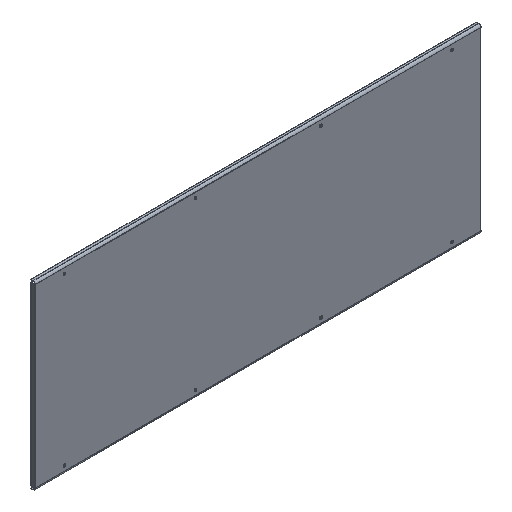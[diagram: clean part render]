
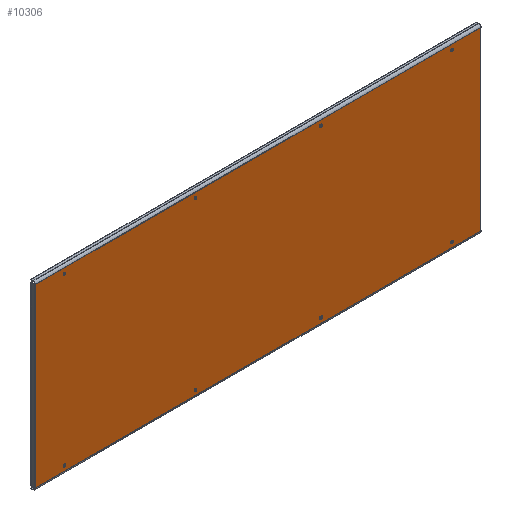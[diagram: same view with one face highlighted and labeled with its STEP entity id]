
A CAD part, isometric view. The second image highlights one B-rep face of the part: STEP entity #10306.
In plain terms, the highlighted planar face has unit normal (0, -1, 0).
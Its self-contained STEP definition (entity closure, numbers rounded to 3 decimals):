
#8381=CARTESIAN_POINT(' ',(275.,-1.5,-370.5));
#8382=VERTEX_POINT(' ',#8381);
#8396=CARTESIAN_POINT(' ',(275.,-1.5,-364.5));
#8401=DIRECTION(' ',(0.,-1.,0.));
#8406=DIRECTION(' ',(0.,0.,-1.));
#8411=AXIS2_PLACEMENT_3D(' ',#8396,#8401,#8406);
#8416=CIRCLE('',#8411,6.);
#8421=CARTESIAN_POINT(' ',(275.,-1.5,-358.5));
#8422=VERTEX_POINT(' ',#8421);
#8426=EDGE_CURVE(' ',#8382,#8422,#8416,.T.);
#9431=CARTESIAN_POINT(' ',(275.,-1.5,-364.5));
#9436=DIRECTION(' ',(0.,-1.,0.));
#9441=DIRECTION(' ',(0.,0.,1.));
#9446=AXIS2_PLACEMENT_3D(' ',#9431,#9436,#9441);
#9451=CIRCLE('',#9446,6.);
#9456=EDGE_CURVE(' ',#8422,#8382,#9451,.T.);
#9481=DIRECTION(' ',(-0.,-1.,-0.));
#9486=CARTESIAN_POINT(' ',(-975.25,-1.5,-386.5));
#9491=DIRECTION(' ',(1.,-0.,0.));
#9496=AXIS2_PLACEMENT_3D(' ',#9486,#9481,#9491);
#9501=PLANE('NONE',#9496);
#9506=CARTESIAN_POINT(' ',(975.25,-1.5,-386.5));
#9511=DIRECTION(' ',(0.,0.,1.));
#9516=VECTOR(' ',#9511,1.);
#9521=LINE('',#9506,#9516);
#9526=CARTESIAN_POINT(' ',(975.25,-1.5,-386.5));
#9527=VERTEX_POINT(' ',#9526);
#9531=CARTESIAN_POINT(' ',(975.25,-1.5,386.5));
#9532=VERTEX_POINT(' ',#9531);
#9536=EDGE_CURVE(' ',#9527,#9532,#9521,.T.);
#9541=ORIENTED_EDGE(' ',*,*,#9536,.T.);
#9546=CARTESIAN_POINT(' ',(975.25,-1.5,386.5));
#9551=DIRECTION(' ',(-1.,0.,0.));
#9556=VECTOR(' ',#9551,1.);
#9561=LINE('',#9546,#9556);
#9566=CARTESIAN_POINT(' ',(-975.25,-1.5,386.5));
#9567=VERTEX_POINT(' ',#9566);
#9571=EDGE_CURVE(' ',#9532,#9567,#9561,.T.);
#9576=ORIENTED_EDGE(' ',*,*,#9571,.T.);
#9581=CARTESIAN_POINT(' ',(-975.25,-1.5,386.5));
#9586=DIRECTION(' ',(0.,0.,-1.));
#9591=VECTOR(' ',#9586,1.);
#9596=LINE('',#9581,#9591);
#9601=CARTESIAN_POINT(' ',(-975.25,-1.5,-386.5));
#9602=VERTEX_POINT(' ',#9601);
#9606=EDGE_CURVE(' ',#9567,#9602,#9596,.T.);
#9611=ORIENTED_EDGE(' ',*,*,#9606,.T.);
#9616=CARTESIAN_POINT(' ',(-975.25,-1.5,-386.5));
#9621=DIRECTION(' ',(1.,0.,0.));
#9626=VECTOR(' ',#9621,1.);
#9631=LINE('',#9616,#9626);
#9636=EDGE_CURVE(' ',#9602,#9527,#9631,.T.);
#9641=ORIENTED_EDGE(' ',*,*,#9636,.T.);
#9646=EDGE_LOOP(' ',(#9541,#9576,#9611,#9641));
#9651=FACE_OUTER_BOUND(' ',#9646,.T.);
#9656=ORIENTED_EDGE(' ',*,*,#9456,.F.);
#9661=ORIENTED_EDGE(' ',*,*,#8426,.F.);
#9666=EDGE_LOOP(' ',(#9656,#9661));
#9671=FACE_BOUND(' ',#9666,.T.);
#9676=CARTESIAN_POINT(' ',(850.,-1.5,-364.5));
#9681=DIRECTION(' ',(0.,-1.,0.));
#9686=DIRECTION(' ',(0.,0.,1.));
#9691=AXIS2_PLACEMENT_3D(' ',#9676,#9681,#9686);
#9696=CIRCLE('',#9691,6.);
#9701=CARTESIAN_POINT(' ',(850.,-1.5,-358.5));
#9702=VERTEX_POINT(' ',#9701);
#9706=CARTESIAN_POINT(' ',(850.,-1.5,-370.5));
#9707=VERTEX_POINT(' ',#9706);
#9711=EDGE_CURVE(' ',#9702,#9707,#9696,.T.);
#9716=ORIENTED_EDGE(' ',*,*,#9711,.F.);
#9721=CARTESIAN_POINT(' ',(850.,-1.5,-364.5));
#9726=DIRECTION(' ',(0.,-1.,0.));
#9731=DIRECTION(' ',(0.,0.,-1.));
#9736=AXIS2_PLACEMENT_3D(' ',#9721,#9726,#9731);
#9741=CIRCLE('',#9736,6.);
#9746=EDGE_CURVE(' ',#9707,#9702,#9741,.T.);
#9751=ORIENTED_EDGE(' ',*,*,#9746,.F.);
#9756=EDGE_LOOP(' ',(#9716,#9751));
#9761=FACE_BOUND(' ',#9756,.T.);
#9766=CARTESIAN_POINT(' ',(850.,-1.5,364.5));
#9771=DIRECTION(' ',(0.,1.,0.));
#9776=DIRECTION(' ',(0.,0.,-1.));
#9781=AXIS2_PLACEMENT_3D(' ',#9766,#9771,#9776);
#9786=CIRCLE('',#9781,6.);
#9791=CARTESIAN_POINT(' ',(850.,-1.5,358.5));
#9792=VERTEX_POINT(' ',#9791);
#9796=CARTESIAN_POINT(' ',(850.,-1.5,370.5));
#9797=VERTEX_POINT(' ',#9796);
#9801=EDGE_CURVE(' ',#9792,#9797,#9786,.T.);
#9806=ORIENTED_EDGE(' ',*,*,#9801,.T.);
#9811=CARTESIAN_POINT(' ',(850.,-1.5,364.5));
#9816=DIRECTION(' ',(0.,1.,0.));
#9821=DIRECTION(' ',(0.,0.,1.));
#9826=AXIS2_PLACEMENT_3D(' ',#9811,#9816,#9821);
#9831=CIRCLE('',#9826,6.);
#9836=EDGE_CURVE(' ',#9797,#9792,#9831,.T.);
#9841=ORIENTED_EDGE(' ',*,*,#9836,.T.);
#9846=EDGE_LOOP(' ',(#9806,#9841));
#9851=FACE_BOUND(' ',#9846,.T.);
#9856=CARTESIAN_POINT(' ',(-275.,-1.5,364.5));
#9861=DIRECTION(' ',(0.,-1.,0.));
#9866=DIRECTION(' ',(0.,0.,-1.));
#9871=AXIS2_PLACEMENT_3D(' ',#9856,#9861,#9866);
#9876=CIRCLE('',#9871,6.);
#9881=CARTESIAN_POINT(' ',(-275.,-1.5,358.5));
#9882=VERTEX_POINT(' ',#9881);
#9886=CARTESIAN_POINT(' ',(-275.,-1.5,370.5));
#9887=VERTEX_POINT(' ',#9886);
#9891=EDGE_CURVE(' ',#9882,#9887,#9876,.T.);
#9896=ORIENTED_EDGE(' ',*,*,#9891,.F.);
#9901=CARTESIAN_POINT(' ',(-275.,-1.5,364.5));
#9906=DIRECTION(' ',(0.,-1.,0.));
#9911=DIRECTION(' ',(0.,0.,1.));
#9916=AXIS2_PLACEMENT_3D(' ',#9901,#9906,#9911);
#9921=CIRCLE('',#9916,6.);
#9926=EDGE_CURVE(' ',#9887,#9882,#9921,.T.);
#9931=ORIENTED_EDGE(' ',*,*,#9926,.F.);
#9936=EDGE_LOOP(' ',(#9896,#9931));
#9941=FACE_BOUND(' ',#9936,.T.);
#9946=CARTESIAN_POINT(' ',(-850.,-1.5,364.5));
#9951=DIRECTION(' ',(0.,-1.,0.));
#9956=DIRECTION(' ',(0.,0.,-1.));
#9961=AXIS2_PLACEMENT_3D(' ',#9946,#9951,#9956);
#9966=CIRCLE('',#9961,6.);
#9971=CARTESIAN_POINT(' ',(-850.,-1.5,358.5));
#9972=VERTEX_POINT(' ',#9971);
#9976=CARTESIAN_POINT(' ',(-850.,-1.5,370.5));
#9977=VERTEX_POINT(' ',#9976);
#9981=EDGE_CURVE(' ',#9972,#9977,#9966,.T.);
#9986=ORIENTED_EDGE(' ',*,*,#9981,.F.);
#9991=CARTESIAN_POINT(' ',(-850.,-1.5,364.5));
#9996=DIRECTION(' ',(0.,-1.,0.));
#10001=DIRECTION(' ',(0.,0.,1.));
#10006=AXIS2_PLACEMENT_3D(' ',#9991,#9996,#10001);
#10011=CIRCLE('',#10006,6.);
#10016=EDGE_CURVE(' ',#9977,#9972,#10011,.T.);
#10021=ORIENTED_EDGE(' ',*,*,#10016,.F.);
#10026=EDGE_LOOP(' ',(#9986,#10021));
#10031=FACE_BOUND(' ',#10026,.T.);
#10036=CARTESIAN_POINT(' ',(-850.,-1.5,-364.5));
#10041=DIRECTION(' ',(0.,1.,0.));
#10046=DIRECTION(' ',(0.,0.,1.));
#10051=AXIS2_PLACEMENT_3D(' ',#10036,#10041,#10046);
#10056=CIRCLE('',#10051,6.);
#10061=CARTESIAN_POINT(' ',(-850.,-1.5,-358.5));
#10062=VERTEX_POINT(' ',#10061);
#10066=CARTESIAN_POINT(' ',(-850.,-1.5,-370.5));
#10067=VERTEX_POINT(' ',#10066);
#10071=EDGE_CURVE(' ',#10062,#10067,#10056,.T.);
#10076=ORIENTED_EDGE(' ',*,*,#10071,.T.);
#10081=CARTESIAN_POINT(' ',(-850.,-1.5,-364.5));
#10086=DIRECTION(' ',(0.,1.,0.));
#10091=DIRECTION(' ',(0.,0.,-1.));
#10096=AXIS2_PLACEMENT_3D(' ',#10081,#10086,#10091);
#10101=CIRCLE('',#10096,6.);
#10106=EDGE_CURVE(' ',#10067,#10062,#10101,.T.);
#10111=ORIENTED_EDGE(' ',*,*,#10106,.T.);
#10116=EDGE_LOOP(' ',(#10076,#10111));
#10121=FACE_BOUND(' ',#10116,.T.);
#10126=CARTESIAN_POINT(' ',(275.,-1.5,364.5));
#10131=DIRECTION(' ',(0.,1.,0.));
#10136=DIRECTION(' ',(0.,0.,-1.));
#10141=AXIS2_PLACEMENT_3D(' ',#10126,#10131,#10136);
#10146=CIRCLE('',#10141,6.);
#10151=CARTESIAN_POINT(' ',(275.,-1.5,358.5));
#10152=VERTEX_POINT(' ',#10151);
#10156=CARTESIAN_POINT(' ',(275.,-1.5,370.5));
#10157=VERTEX_POINT(' ',#10156);
#10161=EDGE_CURVE(' ',#10152,#10157,#10146,.T.);
#10166=ORIENTED_EDGE(' ',*,*,#10161,.T.);
#10171=CARTESIAN_POINT(' ',(275.,-1.5,364.5));
#10176=DIRECTION(' ',(0.,1.,0.));
#10181=DIRECTION(' ',(0.,0.,1.));
#10186=AXIS2_PLACEMENT_3D(' ',#10171,#10176,#10181);
#10191=CIRCLE('',#10186,6.);
#10196=EDGE_CURVE(' ',#10157,#10152,#10191,.T.);
#10201=ORIENTED_EDGE(' ',*,*,#10196,.T.);
#10206=EDGE_LOOP(' ',(#10166,#10201));
#10211=FACE_BOUND(' ',#10206,.T.);
#10216=CARTESIAN_POINT(' ',(-275.,-1.5,-364.5));
#10221=DIRECTION(' ',(0.,1.,0.));
#10226=DIRECTION(' ',(0.,0.,1.));
#10231=AXIS2_PLACEMENT_3D(' ',#10216,#10221,#10226);
#10236=CIRCLE('',#10231,6.);
#10241=CARTESIAN_POINT(' ',(-275.,-1.5,-358.5));
#10242=VERTEX_POINT(' ',#10241);
#10246=CARTESIAN_POINT(' ',(-275.,-1.5,-370.5));
#10247=VERTEX_POINT(' ',#10246);
#10251=EDGE_CURVE(' ',#10242,#10247,#10236,.T.);
#10256=ORIENTED_EDGE(' ',*,*,#10251,.T.);
#10261=CARTESIAN_POINT(' ',(-275.,-1.5,-364.5));
#10266=DIRECTION(' ',(0.,1.,0.));
#10271=DIRECTION(' ',(0.,0.,-1.));
#10276=AXIS2_PLACEMENT_3D(' ',#10261,#10266,#10271);
#10281=CIRCLE('',#10276,6.);
#10286=EDGE_CURVE(' ',#10247,#10242,#10281,.T.);
#10291=ORIENTED_EDGE(' ',*,*,#10286,.T.);
#10296=EDGE_LOOP(' ',(#10256,#10291));
#10301=FACE_BOUND(' ',#10296,.T.);
#10306=ADVANCED_FACE('NONE',(#9651,#9671,#9761,#9851,#9941,#10031,#10121,#10211,#10301),#9501,.T.);
